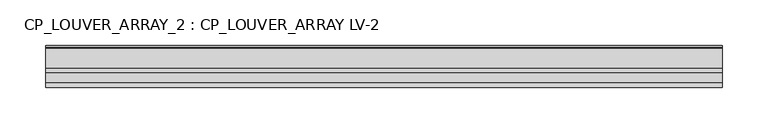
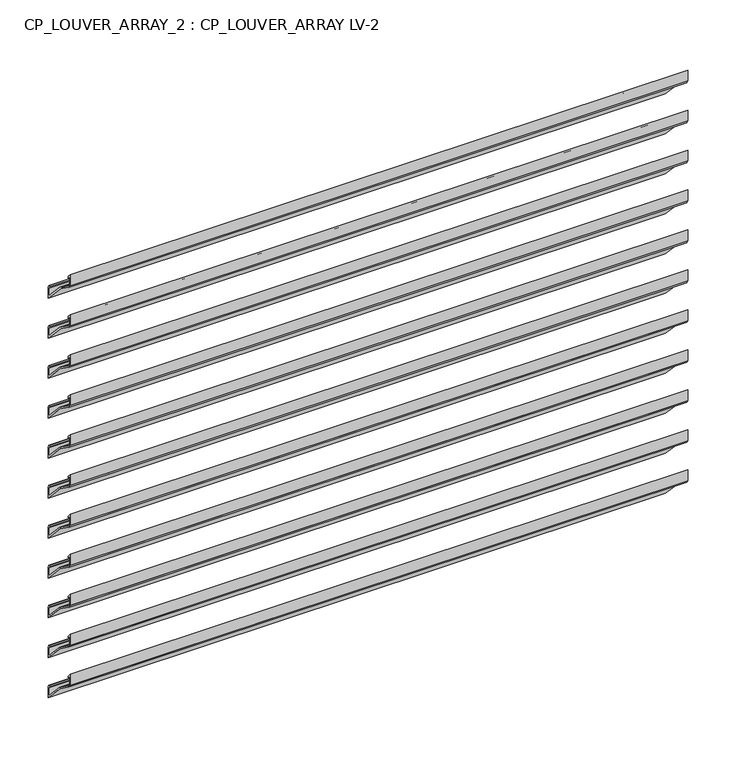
"""IFC4 building model written with IfcOpenShell, lengths in millimetres: plate geometry, CP_LOUVER_ARRAY_2 : CP_LOUVER_ARRAY LV-2."""

from ifc_helpers import new_model, si_unit, origin, place, context, project, spatial, faceted_brep, source, transform, mapped, element, save


def cp_louver_array_2_cp_louver_array_lv_2_bed63b7a(model_context):
    return source(origin(), model_context, "Body", "Brep", [
        faceted_brep([(371.475, -96.3393096, 549.1190525), (371.475, -69.85, 520.7127457), (371.475, -69.85, 534.5844296), (371.475, -71.4632993, 537.7754075), (371.475, -73.025, 538.925084), (371.475, -73.025, 537.0326554), (371.475, -71.374, 534.5844296), (371.475, -71.374, 524.5816451), (371.475, -94.5749864, 549.4506311), (371.475, -99.9681804, 553.3028259), (371.475, -113.6250477, 562.9600681), (371.475, -114.6556, 564.9509873), (371.475, -114.6556, 574.9060452), (371.475, -111.4806, 571.5012746), (371.475, -111.4806, 573.735884), (371.475, -116.1796, 578.7749446), (371.475, -116.1796, 564.9509873), (371.475, -114.5049525, 561.7157436), (371.475, -100.8480853, 552.0585014), (-371.475, -96.3393096, 549.1190525), (-371.475, -100.8480853, 552.0585014), (-371.475, -114.5049525, 561.7157436), (-371.475, -116.1796, 564.9509873), (-371.475, -116.1796, 578.7749446), (-371.475, -111.4806, 573.735884), (-371.475, -111.4806, 571.5012746), (-371.475, -114.6556, 574.9060452), (-371.475, -114.6556, 564.9509873), (-371.475, -113.6250477, 562.9600681), (-371.475, -99.9681804, 553.3028259), (-371.475, -94.5749864, 549.4506311), (-371.475, -71.3542993, 524.6000536), (-371.475, -71.374, 534.5844296), (-371.475, -73.025, 537.0326554), (-371.475, -73.025, 538.925084), (-371.475, -71.4632993, 537.7754075), (-371.475, -69.85, 534.5844296), (-371.475, -69.85, 520.7127457)], [[[0, 1, 2, 3, 4, 5, 6, 7, 8, 9, 10, 11, 12, 13, 14, 15, 16, 17, 18]], [[19, 20, 21, 22, 23, 24, 25, 26, 27, 28, 29, 30, 31, 32, 33, 34, 35, 36, 37]], [[1, 0, 19, 37]], [[2, 1, 37, 36]], [[3, 2, 36, 35]], [[4, 3, 35, 34]], [[5, 4, 34, 33]], [[6, 5, 33, 32]], [[7, 6, 32, 31]], [[7, 31, 30, 8]], [[9, 8, 30, 29]], [[10, 9, 29, 28]], [[11, 10, 28, 27]], [[12, 11, 27, 26]], [[13, 12, 26, 25]], [[14, 13, 25, 24]], [[15, 14, 24, 23]], [[16, 15, 23, 22]], [[17, 16, 22, 21]], [[18, 17, 21, 20]], [[0, 18, 20, 19]]]),
        faceted_brep([(371.475, -96.3393096, 498.3177779), (371.475, -69.85, 469.9114711), (371.475, -69.85, 483.7831551), (371.475, -71.4632993, 486.9741329), (371.475, -73.025, 488.1238094), (371.475, -73.025, 486.2313808), (371.475, -71.374, 483.7831551), (371.475, -71.374, 473.7803705), (371.475, -94.5749864, 498.6493565), (371.475, -99.9681804, 502.5015513), (371.475, -113.6250477, 512.1587935), (371.475, -114.6556, 514.1497128), (371.475, -114.6556, 524.1047707), (371.475, -111.4806, 520.7), (371.475, -111.4806, 522.9346095), (371.475, -116.1796, 527.97367), (371.475, -116.1796, 514.1497128), (371.475, -114.5049525, 510.914469), (371.475, -100.8480853, 501.2572268), (-371.475, -96.3393096, 498.3177779), (-371.475, -100.8480853, 501.2572268), (-371.475, -114.5049525, 510.914469), (-371.475, -116.1796, 514.1497128), (-371.475, -116.1796, 527.97367), (-371.475, -111.4806, 522.9346095), (-371.475, -111.4806, 520.7), (-371.475, -114.6556, 524.1047707), (-371.475, -114.6556, 514.1497128), (-371.475, -113.6250477, 512.1587935), (-371.475, -99.9681804, 502.5015513), (-371.475, -94.5749864, 498.6493565), (-371.475, -71.3542993, 473.798779), (-371.475, -71.374, 483.7831551), (-371.475, -73.025, 486.2313808), (-371.475, -73.025, 488.1238094), (-371.475, -71.4632993, 486.9741329), (-371.475, -69.85, 483.7831551), (-371.475, -69.85, 469.9114711)], [[[0, 1, 2, 3, 4, 5, 6, 7, 8, 9, 10, 11, 12, 13, 14, 15, 16, 17, 18]], [[19, 20, 21, 22, 23, 24, 25, 26, 27, 28, 29, 30, 31, 32, 33, 34, 35, 36, 37]], [[1, 0, 19, 37]], [[2, 1, 37, 36]], [[3, 2, 36, 35]], [[4, 3, 35, 34]], [[5, 4, 34, 33]], [[6, 5, 33, 32]], [[7, 6, 32, 31]], [[7, 31, 30, 8]], [[9, 8, 30, 29]], [[10, 9, 29, 28]], [[11, 10, 28, 27]], [[12, 11, 27, 26]], [[13, 12, 26, 25]], [[14, 13, 25, 24]], [[15, 14, 24, 23]], [[16, 15, 23, 22]], [[17, 16, 22, 21]], [[18, 17, 21, 20]], [[0, 18, 20, 19]]]),
        faceted_brep([(371.475, -96.3393096, 447.5165033), (371.475, -69.85, 419.1101965), (371.475, -69.85, 432.9818805), (371.475, -71.4632993, 436.1728583), (371.475, -73.025, 437.3225348), (371.475, -73.025, 435.4301063), (371.475, -71.374, 432.9818805), (371.475, -71.374, 422.9790959), (371.475, -94.5749864, 447.8480819), (371.475, -99.9681804, 451.7002768), (371.475, -113.6250477, 461.357519), (371.475, -114.6556, 463.3484382), (371.475, -114.6556, 473.3034961), (371.475, -111.4806, 469.8987254), (371.475, -111.4806, 472.1333349), (371.475, -116.1796, 477.1723955), (371.475, -116.1796, 463.3484382), (371.475, -114.5049525, 460.1131944), (371.475, -100.8480853, 450.4559523), (-371.475, -96.3393096, 447.5165033), (-371.475, -100.8480853, 450.4559523), (-371.475, -114.5049525, 460.1131944), (-371.475, -116.1796, 463.3484382), (-371.475, -116.1796, 477.1723955), (-371.475, -111.4806, 472.1333349), (-371.475, -111.4806, 469.8987254), (-371.475, -114.6556, 473.3034961), (-371.475, -114.6556, 463.3484382), (-371.475, -113.6250477, 461.357519), (-371.475, -99.9681804, 451.7002768), (-371.475, -94.5749864, 447.8480819), (-371.475, -71.3542993, 422.9975045), (-371.475, -71.374, 432.9818805), (-371.475, -73.025, 435.4301063), (-371.475, -73.025, 437.3225348), (-371.475, -71.4632993, 436.1728583), (-371.475, -69.85, 432.9818805), (-371.475, -69.85, 419.1101965)], [[[0, 1, 2, 3, 4, 5, 6, 7, 8, 9, 10, 11, 12, 13, 14, 15, 16, 17, 18]], [[19, 20, 21, 22, 23, 24, 25, 26, 27, 28, 29, 30, 31, 32, 33, 34, 35, 36, 37]], [[1, 0, 19, 37]], [[2, 1, 37, 36]], [[3, 2, 36, 35]], [[4, 3, 35, 34]], [[5, 4, 34, 33]], [[6, 5, 33, 32]], [[7, 6, 32, 31]], [[7, 31, 30, 8]], [[9, 8, 30, 29]], [[10, 9, 29, 28]], [[11, 10, 28, 27]], [[12, 11, 27, 26]], [[13, 12, 26, 25]], [[14, 13, 25, 24]], [[15, 14, 24, 23]], [[16, 15, 23, 22]], [[17, 16, 22, 21]], [[18, 17, 21, 20]], [[0, 18, 20, 19]]]),
        faceted_brep([(371.475, -96.3393096, 396.7152288), (371.475, -69.85, 368.308922), (371.475, -69.85, 382.1806059), (371.475, -71.4632993, 385.3715838), (371.475, -73.025, 386.5212603), (371.475, -73.025, 384.6288317), (371.475, -71.374, 382.1806059), (371.475, -71.374, 372.1778214), (371.475, -94.5749864, 397.0468074), (371.475, -99.9681804, 400.8990022), (371.475, -113.6250477, 410.5562444), (371.475, -114.6556, 412.5471636), (371.475, -114.6556, 422.5022215), (371.475, -111.4806, 419.0974509), (371.475, -111.4806, 421.3320603), (371.475, -116.1796, 426.3711209), (371.475, -116.1796, 412.5471636), (371.475, -114.5049525, 409.3119199), (371.475, -100.8480853, 399.6546777), (-371.475, -96.3393096, 396.7152288), (-371.475, -100.8480853, 399.6546777), (-371.475, -114.5049525, 409.3119199), (-371.475, -116.1796, 412.5471636), (-371.475, -116.1796, 426.3711209), (-371.475, -111.4806, 421.3320603), (-371.475, -111.4806, 419.0974509), (-371.475, -114.6556, 422.5022215), (-371.475, -114.6556, 412.5471636), (-371.475, -113.6250477, 410.5562444), (-371.475, -99.9681804, 400.8990022), (-371.475, -94.5749864, 397.0468074), (-371.475, -71.3542993, 372.1962299), (-371.475, -71.374, 382.1806059), (-371.475, -73.025, 384.6288317), (-371.475, -73.025, 386.5212603), (-371.475, -71.4632993, 385.3715838), (-371.475, -69.85, 382.1806059), (-371.475, -69.85, 368.308922)], [[[0, 1, 2, 3, 4, 5, 6, 7, 8, 9, 10, 11, 12, 13, 14, 15, 16, 17, 18]], [[19, 20, 21, 22, 23, 24, 25, 26, 27, 28, 29, 30, 31, 32, 33, 34, 35, 36, 37]], [[1, 0, 19, 37]], [[2, 1, 37, 36]], [[3, 2, 36, 35]], [[4, 3, 35, 34]], [[5, 4, 34, 33]], [[6, 5, 33, 32]], [[7, 6, 32, 31]], [[7, 31, 30, 8]], [[9, 8, 30, 29]], [[10, 9, 29, 28]], [[11, 10, 28, 27]], [[12, 11, 27, 26]], [[13, 12, 26, 25]], [[14, 13, 25, 24]], [[15, 14, 24, 23]], [[16, 15, 23, 22]], [[17, 16, 22, 21]], [[18, 17, 21, 20]], [[0, 18, 20, 19]]]),
        faceted_brep([(371.475, -96.3393096, 345.9139542), (371.475, -69.85, 317.5076474), (371.475, -69.85, 331.3793314), (371.475, -71.4632993, 334.5703092), (371.475, -73.025, 335.7199857), (371.475, -73.025, 333.8275571), (371.475, -71.374, 331.3793314), (371.475, -71.374, 321.3765468), (371.475, -94.5749864, 346.2455328), (371.475, -99.9681804, 350.0977276), (371.475, -113.6250477, 359.7549698), (371.475, -114.6556, 361.7458891), (371.475, -114.6556, 371.7009469), (371.475, -111.4806, 368.2961763), (371.475, -111.4806, 370.5307858), (371.475, -116.1796, 375.5698463), (371.475, -116.1796, 361.7458891), (371.475, -114.5049525, 358.5106453), (371.475, -100.8480853, 348.8534031), (-371.475, -96.3393096, 345.9139542), (-371.475, -100.8480853, 348.8534031), (-371.475, -114.5049525, 358.5106453), (-371.475, -116.1796, 361.7458891), (-371.475, -116.1796, 375.5698463), (-371.475, -111.4806, 370.5307858), (-371.475, -111.4806, 368.2961763), (-371.475, -114.6556, 371.7009469), (-371.475, -114.6556, 361.7458891), (-371.475, -113.6250477, 359.7549698), (-371.475, -99.9681804, 350.0977276), (-371.475, -94.5749864, 346.2455328), (-371.475, -71.3542993, 321.3949553), (-371.475, -71.374, 331.3793314), (-371.475, -73.025, 333.8275571), (-371.475, -73.025, 335.7199857), (-371.475, -71.4632993, 334.5703092), (-371.475, -69.85, 331.3793314), (-371.475, -69.85, 317.5076474)], [[[0, 1, 2, 3, 4, 5, 6, 7, 8, 9, 10, 11, 12, 13, 14, 15, 16, 17, 18]], [[19, 20, 21, 22, 23, 24, 25, 26, 27, 28, 29, 30, 31, 32, 33, 34, 35, 36, 37]], [[1, 0, 19, 37]], [[2, 1, 37, 36]], [[3, 2, 36, 35]], [[4, 3, 35, 34]], [[5, 4, 34, 33]], [[6, 5, 33, 32]], [[7, 6, 32, 31]], [[7, 31, 30, 8]], [[9, 8, 30, 29]], [[10, 9, 29, 28]], [[11, 10, 28, 27]], [[12, 11, 27, 26]], [[13, 12, 26, 25]], [[14, 13, 25, 24]], [[15, 14, 24, 23]], [[16, 15, 23, 22]], [[17, 16, 22, 21]], [[18, 17, 21, 20]], [[0, 18, 20, 19]]]),
        faceted_brep([(371.475, -96.3393096, 295.1126796), (371.475, -69.85, 266.7063728), (371.475, -69.85, 280.5780568), (371.475, -71.4632993, 283.7690346), (371.475, -73.025, 284.9187111), (371.475, -73.025, 283.0262826), (371.475, -71.374, 280.5780568), (371.475, -71.374, 270.5752722), (371.475, -94.5749864, 295.4442582), (371.475, -99.9681804, 299.2964531), (371.475, -113.6250477, 308.9536953), (371.475, -114.6556, 310.9446145), (371.475, -114.6556, 320.8996724), (371.475, -111.4806, 317.4949017), (371.475, -111.4806, 319.7295112), (371.475, -116.1796, 324.7685718), (371.475, -116.1796, 310.9446145), (371.475, -114.5049525, 307.7093707), (371.475, -100.8480853, 298.0521286), (-371.475, -96.3393096, 295.1126796), (-371.475, -100.8480853, 298.0521286), (-371.475, -114.5049525, 307.7093707), (-371.475, -116.1796, 310.9446145), (-371.475, -116.1796, 324.7685718), (-371.475, -111.4806, 319.7295112), (-371.475, -111.4806, 317.4949017), (-371.475, -114.6556, 320.8996724), (-371.475, -114.6556, 310.9446145), (-371.475, -113.6250477, 308.9536953), (-371.475, -99.9681804, 299.2964531), (-371.475, -94.5749864, 295.4442582), (-371.475, -71.3542993, 270.5936808), (-371.475, -71.374, 280.5780568), (-371.475, -73.025, 283.0262826), (-371.475, -73.025, 284.9187111), (-371.475, -71.4632993, 283.7690346), (-371.475, -69.85, 280.5780568), (-371.475, -69.85, 266.7063728)], [[[0, 1, 2, 3, 4, 5, 6, 7, 8, 9, 10, 11, 12, 13, 14, 15, 16, 17, 18]], [[19, 20, 21, 22, 23, 24, 25, 26, 27, 28, 29, 30, 31, 32, 33, 34, 35, 36, 37]], [[1, 0, 19, 37]], [[2, 1, 37, 36]], [[3, 2, 36, 35]], [[4, 3, 35, 34]], [[5, 4, 34, 33]], [[6, 5, 33, 32]], [[7, 6, 32, 31]], [[7, 31, 30, 8]], [[9, 8, 30, 29]], [[10, 9, 29, 28]], [[11, 10, 28, 27]], [[12, 11, 27, 26]], [[13, 12, 26, 25]], [[14, 13, 25, 24]], [[15, 14, 24, 23]], [[16, 15, 23, 22]], [[17, 16, 22, 21]], [[18, 17, 21, 20]], [[0, 18, 20, 19]]]),
        faceted_brep([(371.475, -96.3393096, 244.3114051), (371.475, -69.85, 215.9050983), (371.475, -69.85, 229.7767822), (371.475, -71.4632993, 232.9677601), (371.475, -73.025, 234.1174365), (371.475, -73.025, 232.225008), (371.475, -71.374, 229.7767822), (371.475, -71.374, 219.7739977), (371.475, -94.5749864, 244.6429837), (371.475, -99.9681804, 248.4951785), (371.475, -113.6250477, 258.1524207), (371.475, -114.6556, 260.1433399), (371.475, -114.6556, 270.0983978), (371.475, -111.4806, 266.6936272), (371.475, -111.4806, 268.9282366), (371.475, -116.1796, 273.9672972), (371.475, -116.1796, 260.1433399), (371.475, -114.5049525, 256.9080962), (371.475, -100.8480853, 247.250854), (-371.475, -96.3393096, 244.3114051), (-371.475, -100.8480853, 247.250854), (-371.475, -114.5049525, 256.9080962), (-371.475, -116.1796, 260.1433399), (-371.475, -116.1796, 273.9672972), (-371.475, -111.4806, 268.9282366), (-371.475, -111.4806, 266.6936272), (-371.475, -114.6556, 270.0983978), (-371.475, -114.6556, 260.1433399), (-371.475, -113.6250477, 258.1524207), (-371.475, -99.9681804, 248.4951785), (-371.475, -94.5749864, 244.6429837), (-371.475, -71.3542993, 219.7924062), (-371.475, -71.374, 229.7767822), (-371.475, -73.025, 232.225008), (-371.475, -73.025, 234.1174365), (-371.475, -71.4632993, 232.9677601), (-371.475, -69.85, 229.7767822), (-371.475, -69.85, 215.9050983)], [[[0, 1, 2, 3, 4, 5, 6, 7, 8, 9, 10, 11, 12, 13, 14, 15, 16, 17, 18]], [[19, 20, 21, 22, 23, 24, 25, 26, 27, 28, 29, 30, 31, 32, 33, 34, 35, 36, 37]], [[1, 0, 19, 37]], [[2, 1, 37, 36]], [[3, 2, 36, 35]], [[4, 3, 35, 34]], [[5, 4, 34, 33]], [[6, 5, 33, 32]], [[7, 6, 32, 31]], [[7, 31, 30, 8]], [[9, 8, 30, 29]], [[10, 9, 29, 28]], [[11, 10, 28, 27]], [[12, 11, 27, 26]], [[13, 12, 26, 25]], [[14, 13, 25, 24]], [[15, 14, 24, 23]], [[16, 15, 23, 22]], [[17, 16, 22, 21]], [[18, 17, 21, 20]], [[0, 18, 20, 19]]]),
        faceted_brep([(371.475, -96.3393096, 193.5101305), (371.475, -69.85, 165.1038237), (371.475, -69.85, 178.9755076), (371.475, -71.4632993, 182.1664855), (371.475, -73.025, 183.316162), (371.475, -73.025, 181.4237334), (371.475, -71.374, 178.9755076), (371.475, -71.374, 168.9727231), (371.475, -94.5749864, 193.8417091), (371.475, -99.9681804, 197.6939039), (371.475, -113.6250477, 207.3511461), (371.475, -114.6556, 209.3420654), (371.475, -114.6556, 219.2971232), (371.475, -111.4806, 215.8923526), (371.475, -111.4806, 218.1269621), (371.475, -116.1796, 223.1660226), (371.475, -116.1796, 209.3420654), (371.475, -114.5049525, 206.1068216), (371.475, -100.8480853, 196.4495794), (-371.475, -96.3393096, 193.5101305), (-371.475, -100.8480853, 196.4495794), (-371.475, -114.5049525, 206.1068216), (-371.475, -116.1796, 209.3420654), (-371.475, -116.1796, 223.1660226), (-371.475, -111.4806, 218.1269621), (-371.475, -111.4806, 215.8923526), (-371.475, -114.6556, 219.2971232), (-371.475, -114.6556, 209.3420654), (-371.475, -113.6250477, 207.3511461), (-371.475, -99.9681804, 197.6939039), (-371.475, -94.5749864, 193.8417091), (-371.475, -71.3542993, 168.9911316), (-371.475, -71.374, 178.9755076), (-371.475, -73.025, 181.4237334), (-371.475, -73.025, 183.316162), (-371.475, -71.4632993, 182.1664855), (-371.475, -69.85, 178.9755076), (-371.475, -69.85, 165.1038237)], [[[0, 1, 2, 3, 4, 5, 6, 7, 8, 9, 10, 11, 12, 13, 14, 15, 16, 17, 18]], [[19, 20, 21, 22, 23, 24, 25, 26, 27, 28, 29, 30, 31, 32, 33, 34, 35, 36, 37]], [[1, 0, 19, 37]], [[2, 1, 37, 36]], [[3, 2, 36, 35]], [[4, 3, 35, 34]], [[5, 4, 34, 33]], [[6, 5, 33, 32]], [[7, 6, 32, 31]], [[7, 31, 30, 8]], [[9, 8, 30, 29]], [[10, 9, 29, 28]], [[11, 10, 28, 27]], [[12, 11, 27, 26]], [[13, 12, 26, 25]], [[14, 13, 25, 24]], [[15, 14, 24, 23]], [[16, 15, 23, 22]], [[17, 16, 22, 21]], [[18, 17, 21, 20]], [[0, 18, 20, 19]]]),
        faceted_brep([(371.475, -96.3393096, 142.7088559), (371.475, -69.85, 114.3025491), (371.475, -69.85, 128.1742331), (371.475, -71.4632993, 131.3652109), (371.475, -73.025, 132.5148874), (371.475, -73.025, 130.6224589), (371.475, -71.374, 128.1742331), (371.475, -71.374, 118.1714485), (371.475, -94.5749864, 143.0404345), (371.475, -99.9681804, 146.8926294), (371.475, -113.6250477, 156.5498716), (371.475, -114.6556, 158.5407908), (371.475, -114.6556, 168.4958487), (371.475, -111.4806, 165.091078), (371.475, -111.4806, 167.3256875), (371.475, -116.1796, 172.3647481), (371.475, -116.1796, 158.5407908), (371.475, -114.5049525, 155.305547), (371.475, -100.8480853, 145.6483048), (-371.475, -96.3393096, 142.7088559), (-371.475, -100.8480853, 145.6483048), (-371.475, -114.5049525, 155.305547), (-371.475, -116.1796, 158.5407908), (-371.475, -116.1796, 172.3647481), (-371.475, -111.4806, 167.3256875), (-371.475, -111.4806, 165.091078), (-371.475, -114.6556, 168.4958487), (-371.475, -114.6556, 158.5407908), (-371.475, -113.6250477, 156.5498716), (-371.475, -99.9681804, 146.8926294), (-371.475, -94.5749864, 143.0404345), (-371.475, -71.3542993, 118.1898571), (-371.475, -71.374, 128.1742331), (-371.475, -73.025, 130.6224589), (-371.475, -73.025, 132.5148874), (-371.475, -71.4632993, 131.3652109), (-371.475, -69.85, 128.1742331), (-371.475, -69.85, 114.3025491)], [[[0, 1, 2, 3, 4, 5, 6, 7, 8, 9, 10, 11, 12, 13, 14, 15, 16, 17, 18]], [[19, 20, 21, 22, 23, 24, 25, 26, 27, 28, 29, 30, 31, 32, 33, 34, 35, 36, 37]], [[1, 0, 19, 37]], [[2, 1, 37, 36]], [[3, 2, 36, 35]], [[4, 3, 35, 34]], [[5, 4, 34, 33]], [[6, 5, 33, 32]], [[7, 6, 32, 31]], [[7, 31, 30, 8]], [[9, 8, 30, 29]], [[10, 9, 29, 28]], [[11, 10, 28, 27]], [[12, 11, 27, 26]], [[13, 12, 26, 25]], [[14, 13, 25, 24]], [[15, 14, 24, 23]], [[16, 15, 23, 22]], [[17, 16, 22, 21]], [[18, 17, 21, 20]], [[0, 18, 20, 19]]]),
        faceted_brep([(371.475, -96.3393096, 91.9075814), (371.475, -69.85, 63.5012746), (371.475, -69.85, 77.3729585), (371.475, -71.4632993, 80.5639364), (371.475, -73.025, 81.7136128), (371.475, -73.025, 79.8211843), (371.475, -71.374, 77.3729585), (371.475, -71.374, 67.370174), (371.475, -94.5749864, 92.23916), (371.475, -99.9681804, 96.0913548), (371.475, -113.6250477, 105.748597), (371.475, -114.6556, 107.7395162), (371.475, -114.6556, 117.6945741), (371.475, -111.4806, 114.2898035), (371.475, -111.4806, 116.5244129), (371.475, -116.1796, 121.5634735), (371.475, -116.1796, 107.7395162), (371.475, -114.5049525, 104.5042725), (371.475, -100.8480853, 94.8470303), (-371.475, -96.3393096, 91.9075814), (-371.475, -100.8480853, 94.8470303), (-371.475, -114.5049525, 104.5042725), (-371.475, -116.1796, 107.7395162), (-371.475, -116.1796, 121.5634735), (-371.475, -111.4806, 116.5244129), (-371.475, -111.4806, 114.2898035), (-371.475, -114.6556, 117.6945741), (-371.475, -114.6556, 107.7395162), (-371.475, -113.6250477, 105.748597), (-371.475, -99.9681804, 96.0913548), (-371.475, -94.5749864, 92.23916), (-371.475, -71.3542993, 67.3885825), (-371.475, -71.374, 77.3729585), (-371.475, -73.025, 79.8211843), (-371.475, -73.025, 81.7136128), (-371.475, -71.4632993, 80.5639364), (-371.475, -69.85, 77.3729585), (-371.475, -69.85, 63.5012746)], [[[0, 1, 2, 3, 4, 5, 6, 7, 8, 9, 10, 11, 12, 13, 14, 15, 16, 17, 18]], [[19, 20, 21, 22, 23, 24, 25, 26, 27, 28, 29, 30, 31, 32, 33, 34, 35, 36, 37]], [[1, 0, 19, 37]], [[2, 1, 37, 36]], [[3, 2, 36, 35]], [[4, 3, 35, 34]], [[5, 4, 34, 33]], [[6, 5, 33, 32]], [[7, 6, 32, 31]], [[7, 31, 30, 8]], [[9, 8, 30, 29]], [[10, 9, 29, 28]], [[11, 10, 28, 27]], [[12, 11, 27, 26]], [[13, 12, 26, 25]], [[14, 13, 25, 24]], [[15, 14, 24, 23]], [[16, 15, 23, 22]], [[17, 16, 22, 21]], [[18, 17, 21, 20]], [[0, 18, 20, 19]]]),
        faceted_brep([(371.475, -96.3393096, 41.1063068), (371.475, -69.85, 12.7), (371.475, -69.85, 26.5716839), (371.475, -71.4632993, 29.7626618), (371.475, -73.025, 30.9123383), (371.475, -73.025, 29.0199097), (371.475, -71.374, 26.5716839), (371.475, -71.374, 16.5688994), (371.475, -94.5749864, 41.4378854), (371.475, -99.9681804, 45.2900802), (371.475, -113.6250477, 54.9473224), (371.475, -114.6556, 56.9382417), (371.475, -114.6556, 66.8932995), (371.475, -111.4806, 63.4885289), (371.475, -111.4806, 65.7231384), (371.475, -116.1796, 70.7621989), (371.475, -116.1796, 56.9382417), (371.475, -114.5049525, 53.7029979), (371.475, -100.8480853, 44.0457557), (-371.475, -96.3393096, 41.1063068), (-371.475, -100.8480853, 44.0457557), (-371.475, -114.5049525, 53.7029979), (-371.475, -116.1796, 56.9382417), (-371.475, -116.1796, 70.7621989), (-371.475, -111.4806, 65.7231384), (-371.475, -111.4806, 63.4885289), (-371.475, -114.6556, 66.8932995), (-371.475, -114.6556, 56.9382417), (-371.475, -113.6250477, 54.9473224), (-371.475, -99.9681804, 45.2900802), (-371.475, -94.5749864, 41.4378854), (-371.475, -71.3542993, 16.5873079), (-371.475, -71.374, 26.5716839), (-371.475, -73.025, 29.0199097), (-371.475, -73.025, 30.9123383), (-371.475, -71.4632993, 29.7626618), (-371.475, -69.85, 26.5716839), (-371.475, -69.85, 12.7)], [[[0, 1, 2, 3, 4, 5, 6, 7, 8, 9, 10, 11, 12, 13, 14, 15, 16, 17, 18]], [[19, 20, 21, 22, 23, 24, 25, 26, 27, 28, 29, 30, 31, 32, 33, 34, 35, 36, 37]], [[1, 0, 19, 37]], [[2, 1, 37, 36]], [[3, 2, 36, 35]], [[4, 3, 35, 34]], [[5, 4, 34, 33]], [[6, 5, 33, 32]], [[7, 6, 32, 31]], [[7, 31, 30, 8]], [[9, 8, 30, 29]], [[10, 9, 29, 28]], [[11, 10, 28, 27]], [[12, 11, 27, 26]], [[13, 12, 26, 25]], [[14, 13, 25, 24]], [[15, 14, 24, 23]], [[16, 15, 23, 22]], [[17, 16, 22, 21]], [[18, 17, 21, 20]], [[0, 18, 20, 19]]]),
    ])


if __name__ == "__main__":
    model = new_model("IFC4")
    model_context = context("Model", 3, world=origin())
    ifc_project = project(units=[si_unit("LENGTHUNIT", "METRE", prefix="MILLI")], contexts=[model_context])
    site = spatial("IfcSite", under=ifc_project)
    building = spatial("IfcBuilding", under=site)
    placement = place(None, origin())
    cp_louver_array_2_cp_louver_array_lv_2_shape = cp_louver_array_2_cp_louver_array_lv_2_bed63b7a(model_context)
    element("IfcPlate", 1, ObjectType="CP_LOUVER_ARRAY_2 : CP_LOUVER_ARRAY LV-2", at=placement, inside=building, context=model_context, shape_type="MappedRepresentation", body=[
        mapped(cp_louver_array_2_cp_louver_array_lv_2_shape, transform((0.0, 0.0, 0.0), x_axis=(1.0, 0.0, 0.0), y_axis=(0.0, 1.0, 0.0), z_axis=(0.0, 0.0, 1.0))),
    ])
    save(model, "model.ifc")
